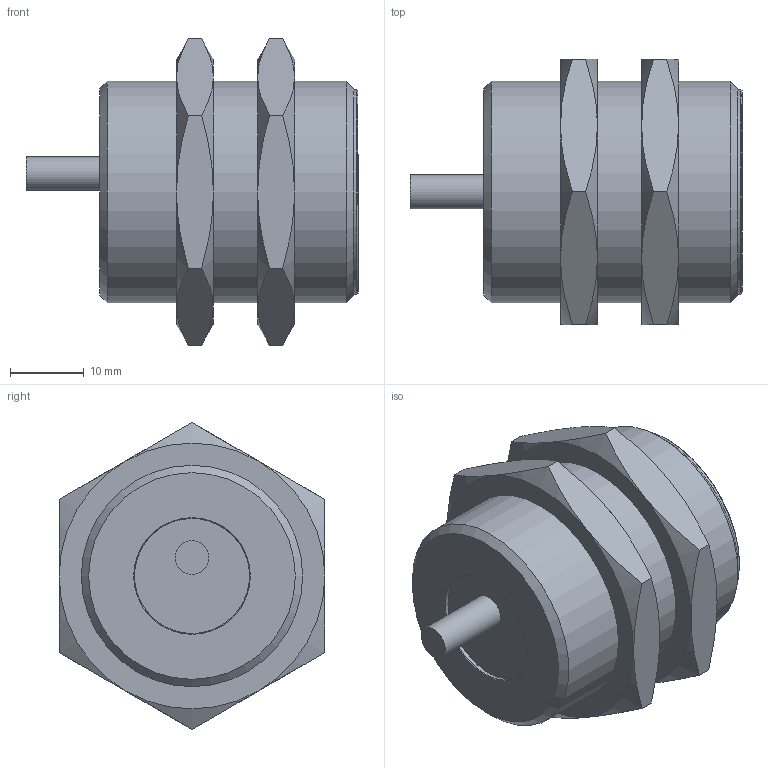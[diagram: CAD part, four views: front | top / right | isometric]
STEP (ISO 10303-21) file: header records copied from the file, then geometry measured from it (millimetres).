
FILE_DESCRIPTION( ( 'Unknown' ), '1' );
FILE_NAME( 'X:/SolidEdge/Models/Dokumentationen/Induktiv/IR30/Vereinfachte Modelle/Neutralformate/IR30.xxxx-F35.xxxx.7BCV.stp', 'Unknown', ( 'Unknown' ), ( 'Unknown' ), 'PSStep 15.0.49', 'Unknown', ' ' );
FILE_SCHEMA( ( 'AUTOMOTIVE_DESIGN { 1 0 10303 214 1 1 1 1 }' ) );
Length unit declared in the file: millimetre
Products named in the file (3): Assem1; IR30.xxxx-F35.xxxx.7BCV; 101477
Assembly tree (3 placements, depth 2):
  Assem1
    IR30.xxxx-F35.xxxx.7BCV
    101477  x2
Bounding box: 45 x 36 x 41.56 mm (x, y, z)
Volume: 29342.6 mm3; surface area: 8655 mm2
Topology: 3 solids, 3 shells, 67 faces, 151 edges, 93 vertices
Faces by surface type: cone 28, plane 21, cylinder 18
Full cylindrical faces by diameter (mm): 4.6 x1, 15.6 x1, 27.7 x1, 28.376 x2, 30 x1
Entity records: 1518 total; most frequent: CARTESIAN_POINT 336, DIRECTION 176, ORIENTED_EDGE 148, AXIS2_PLACEMENT_3D 82, EDGE_CURVE 74, EDGE_LOOP 54, VERTEX_POINT 50, FACE_OUTER_BOUND 45
